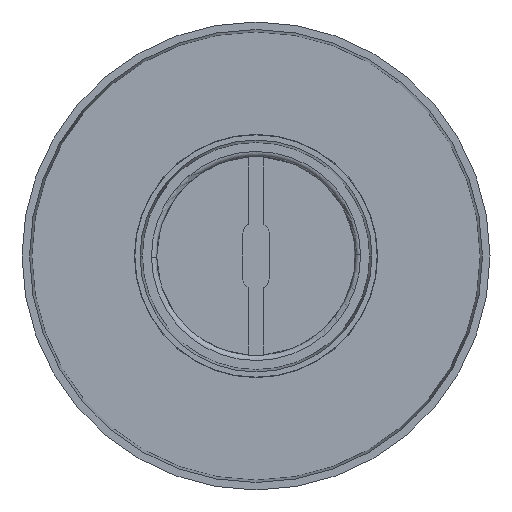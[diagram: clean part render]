
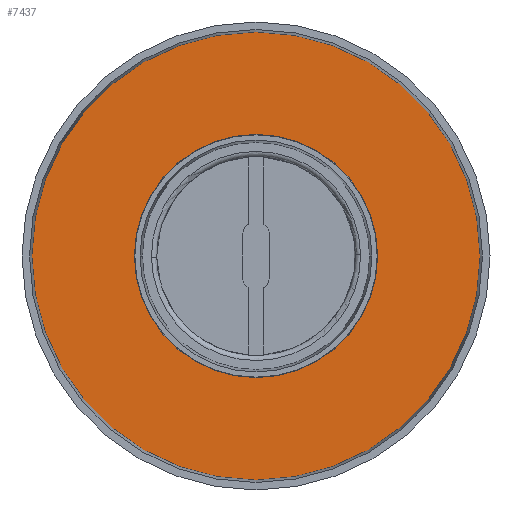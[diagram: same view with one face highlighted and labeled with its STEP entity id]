
A CAD part, front view. The second image highlights one B-rep face of the part: STEP entity #7437.
In plain terms, the highlighted planar face has unit normal (0, -1, 0).
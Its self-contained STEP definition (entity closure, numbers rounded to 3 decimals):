
#505 = ORIENTED_EDGE ( 'NONE', *, *, #37762, .F. ) ;
#2594 = AXIS2_PLACEMENT_3D ( 'NONE', #13501, #30099, #26936 ) ;
#5279 = EDGE_CURVE ( 'NONE', #8142, #7931, #39521, .T. ) ;
#5313 = CARTESIAN_POINT ( 'NONE',  ( 0., 4., 0. ) ) ;
#7437 = ADVANCED_FACE ( 'NONE', ( #31797, #9525 ), #28225, .T. ) ;
#7931 = VERTEX_POINT ( 'NONE', #37995 ) ;
#8142 = VERTEX_POINT ( 'NONE', #39650 ) ;
#8402 = CIRCLE ( 'NONE', #23875, 11.585 ) ;
#8492 = ORIENTED_EDGE ( 'NONE', *, *, #18372, .F. ) ;
#9525 = FACE_OUTER_BOUND ( 'NONE', #36978, .T. ) ;
#10435 = AXIS2_PLACEMENT_3D ( 'NONE', #5313, #41429, #25500 ) ;
#11153 = VERTEX_POINT ( 'NONE', #15655 ) ;
#12303 = CIRCLE ( 'NONE', #17695, 21.356 ) ;
#12643 = DIRECTION ( 'NONE',  ( 0., 1., 0. ) ) ;
#12851 = DIRECTION ( 'NONE',  ( 1., 0., 0. ) ) ;
#13075 = AXIS2_PLACEMENT_3D ( 'NONE', #30912, #37603, #24619 ) ;
#13501 = CARTESIAN_POINT ( 'NONE',  ( 0., 4., 0. ) ) ;
#15655 = CARTESIAN_POINT ( 'NONE',  ( -21.356, 4., 0. ) ) ;
#17180 = ORIENTED_EDGE ( 'NONE', *, *, #26713, .F. ) ;
#17695 = AXIS2_PLACEMENT_3D ( 'NONE', #22304, #12643, #12851 ) ;
#18177 = VERTEX_POINT ( 'NONE', #37863 ) ;
#18372 = EDGE_CURVE ( 'NONE', #11153, #18177, #31154, .T. ) ;
#18593 = EDGE_LOOP ( 'NONE', ( #40020, #17180 ) ) ;
#22304 = CARTESIAN_POINT ( 'NONE',  ( 0., 4., 0. ) ) ;
#22686 = DIRECTION ( 'NONE',  ( 0., 0., 1. ) ) ;
#23875 = AXIS2_PLACEMENT_3D ( 'NONE', #25836, #38611, #22686 ) ;
#24619 = DIRECTION ( 'NONE',  ( 1., 0., 0. ) ) ;
#25500 = DIRECTION ( 'NONE',  ( 0., 0., -1. ) ) ;
#25836 = CARTESIAN_POINT ( 'NONE',  ( 0., 4., 0. ) ) ;
#26713 = EDGE_CURVE ( 'NONE', #7931, #8142, #8402, .T. ) ;
#26936 = DIRECTION ( 'NONE',  ( 0., 0., 1. ) ) ;
#28225 = PLANE ( 'NONE',  #10435 ) ;
#30099 = DIRECTION ( 'NONE',  ( 0., -1., 0. ) ) ;
#30912 = CARTESIAN_POINT ( 'NONE',  ( 0., 4., 0. ) ) ;
#31154 = CIRCLE ( 'NONE', #13075, 21.356 ) ;
#31797 = FACE_BOUND ( 'NONE', #18593, .T. ) ;
#36978 = EDGE_LOOP ( 'NONE', ( #505, #8492 ) ) ;
#37603 = DIRECTION ( 'NONE',  ( 0., 1., 0. ) ) ;
#37762 = EDGE_CURVE ( 'NONE', #18177, #11153, #12303, .T. ) ;
#37863 = CARTESIAN_POINT ( 'NONE',  ( 21.356, 4., 0. ) ) ;
#37995 = CARTESIAN_POINT ( 'NONE',  ( 0., 4., 11.585 ) ) ;
#38611 = DIRECTION ( 'NONE',  ( 0., -1., 0. ) ) ;
#39521 = CIRCLE ( 'NONE', #2594, 11.585 ) ;
#39650 = CARTESIAN_POINT ( 'NONE',  ( 0., 4., -11.585 ) ) ;
#40020 = ORIENTED_EDGE ( 'NONE', *, *, #5279, .F. ) ;
#41429 = DIRECTION ( 'NONE',  ( 0., -1., 0. ) ) ;
